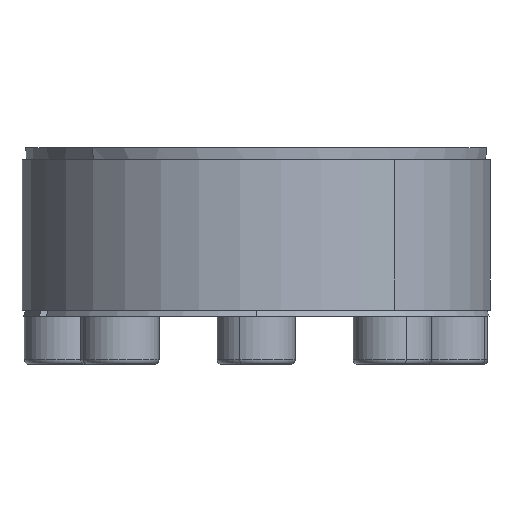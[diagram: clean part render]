
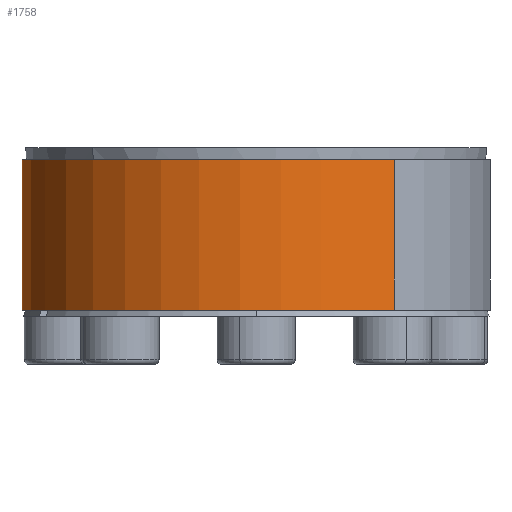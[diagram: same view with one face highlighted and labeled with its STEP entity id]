
A CAD part, left-side view. The second image highlights one B-rep face of the part: STEP entity #1758.
In plain terms, the highlighted cylindrical face has radius 38.985 mm (diameter 77.97 mm), a partial arc.
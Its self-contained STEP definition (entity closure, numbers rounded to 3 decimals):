
#434 = DIRECTION ( 'NONE',  ( 0., 0., -1. ) ) ;
#588 = AXIS2_PLACEMENT_3D ( 'NONE', #5049, #11834, #6027 ) ;
#924 = ORIENTED_EDGE ( 'NONE', *, *, #4998, .F. ) ;
#1758 = ADVANCED_FACE ( 'NONE', ( #5184 ), #6539, .T. ) ;
#1905 = VERTEX_POINT ( 'NONE', #12089 ) ;
#2098 = LINE ( 'NONE', #9245, #9580 ) ;
#2214 = CARTESIAN_POINT ( 'NONE',  ( 0., 0., 26.026 ) ) ;
#2729 = CIRCLE ( 'NONE', #4608, 38.985 ) ;
#3049 = CIRCLE ( 'NONE', #588, 38.985 ) ;
#3163 = DIRECTION ( 'NONE',  ( 0., 0., -1. ) ) ;
#3391 = VECTOR ( 'NONE', #9135, 1000. ) ;
#3999 = LINE ( 'NONE', #8107, #3391 ) ;
#4608 = AXIS2_PLACEMENT_3D ( 'NONE', #5014, #11814, #5995 ) ;
#4998 = EDGE_CURVE ( 'NONE', #12613, #8108, #3049, .T. ) ;
#5014 = CARTESIAN_POINT ( 'NONE',  ( 0., 0., 1.026 ) ) ;
#5049 = CARTESIAN_POINT ( 'NONE',  ( 0., 0., 26.026 ) ) ;
#5107 = ORIENTED_EDGE ( 'NONE', *, *, #6140, .T. ) ;
#5163 = EDGE_LOOP ( 'NONE', ( #12464, #924, #5107, #9169 ) ) ;
#5184 = FACE_OUTER_BOUND ( 'NONE', #5163, .T. ) ;
#5995 = DIRECTION ( 'NONE',  ( -0.809, -0.588, 0. ) ) ;
#6027 = DIRECTION ( 'NONE',  ( -0.809, -0.588, 0. ) ) ;
#6140 = EDGE_CURVE ( 'NONE', #12613, #6804, #3999, .T. ) ;
#6539 = CYLINDRICAL_SURFACE ( 'NONE', #12261, 38.985 ) ;
#6804 = VERTEX_POINT ( 'NONE', #7531 ) ;
#7151 = DIRECTION ( 'NONE',  ( 0.809, 0.588, 0. ) ) ;
#7531 = CARTESIAN_POINT ( 'NONE',  ( 31.54, 22.915, 1.026 ) ) ;
#8107 = CARTESIAN_POINT ( 'NONE',  ( 31.54, 22.915, 26.026 ) ) ;
#8108 = VERTEX_POINT ( 'NONE', #8235 ) ;
#8172 = CARTESIAN_POINT ( 'NONE',  ( 31.54, 22.915, 26.026 ) ) ;
#8235 = CARTESIAN_POINT ( 'NONE',  ( -31.54, -22.915, 26.026 ) ) ;
#9135 = DIRECTION ( 'NONE',  ( 0., 0., -1. ) ) ;
#9169 = ORIENTED_EDGE ( 'NONE', *, *, #9255, .T. ) ;
#9245 = CARTESIAN_POINT ( 'NONE',  ( -31.54, -22.915, 26.026 ) ) ;
#9255 = EDGE_CURVE ( 'NONE', #6804, #1905, #2729, .T. ) ;
#9439 = EDGE_CURVE ( 'NONE', #8108, #1905, #2098, .T. ) ;
#9580 = VECTOR ( 'NONE', #434, 1000. ) ;
#11814 = DIRECTION ( 'NONE',  ( 0., 0., 1. ) ) ;
#11834 = DIRECTION ( 'NONE',  ( 0., 0., 1. ) ) ;
#12089 = CARTESIAN_POINT ( 'NONE',  ( -31.54, -22.915, 1.026 ) ) ;
#12261 = AXIS2_PLACEMENT_3D ( 'NONE', #2214, #3163, #7151 ) ;
#12464 = ORIENTED_EDGE ( 'NONE', *, *, #9439, .F. ) ;
#12613 = VERTEX_POINT ( 'NONE', #8172 ) ;
